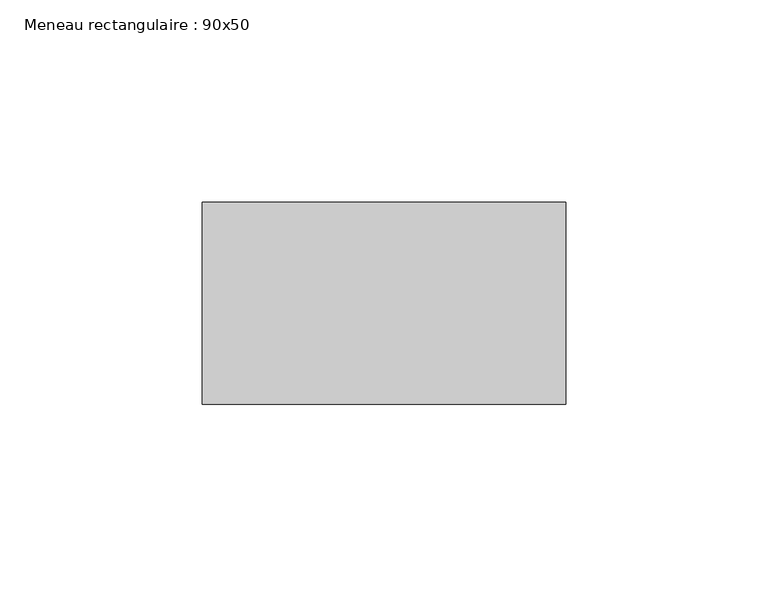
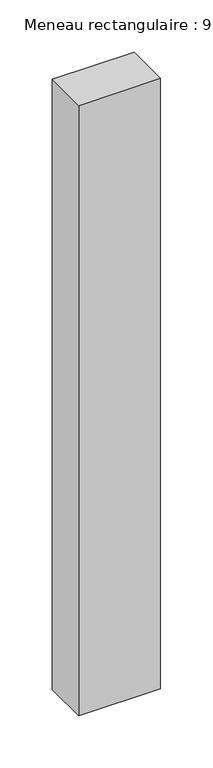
"""IFC4 building model written with IfcOpenShell, lengths in millimetres: member geometry, Meneau rectangulaire : 90x50."""

from ifc_helpers import new_model, si_unit, frame, origin, place, context, project, spatial, polyline, outline, extrude, source, transform, mapped, element, save


def meneau_rectangulaire_90x50_b844ab88(model_context):
    return source(origin(), model_context, "Body", "SweptSolid", [
        extrude(outline(polyline([(0.0, 0.0), (0.0, -50.0), (-90.0, -50.0), (-90.0, 0.0), (0.0, 0.0)])), frame((0.0, 0.0, -710.4354296), z_axis=(0.0, 0.0, 1.0), x_axis=(1.0, 0.0, 0.0)), (0.0, 0.0, 1.0), 710.4354296),
    ])


if __name__ == "__main__":
    model = new_model("IFC4")
    model_context = context("Model", 3, world=origin())
    ifc_project = project(units=[si_unit("LENGTHUNIT", "METRE", prefix="MILLI")], contexts=[model_context])
    site = spatial("IfcSite", under=ifc_project)
    building = spatial("IfcBuilding", under=site)
    placement = place(None, origin())
    meneau_rectangulaire_90x50_shape = meneau_rectangulaire_90x50_b844ab88(model_context)
    element("IfcMember", 1, ObjectType="Meneau rectangulaire : 90x50", at=placement, inside=building, context=model_context, shape_type="MappedRepresentation", body=[
        mapped(meneau_rectangulaire_90x50_shape, transform((0.0, 0.0, 0.0), x_axis=(1.0, 0.0, 0.0), y_axis=(0.0, 1.0, 0.0), z_axis=(0.0, 0.0, 1.0))),
    ])
    save(model, "model.ifc")
